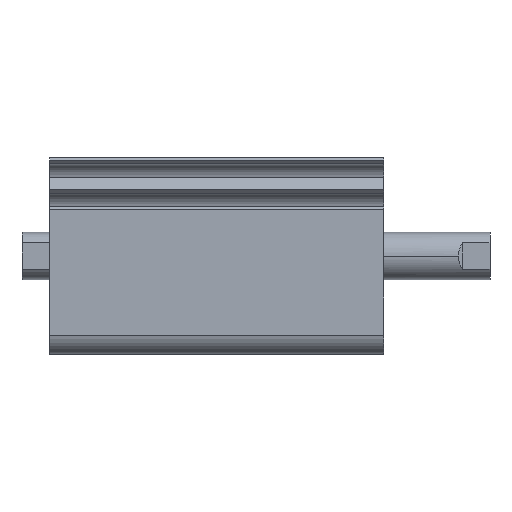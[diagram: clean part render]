
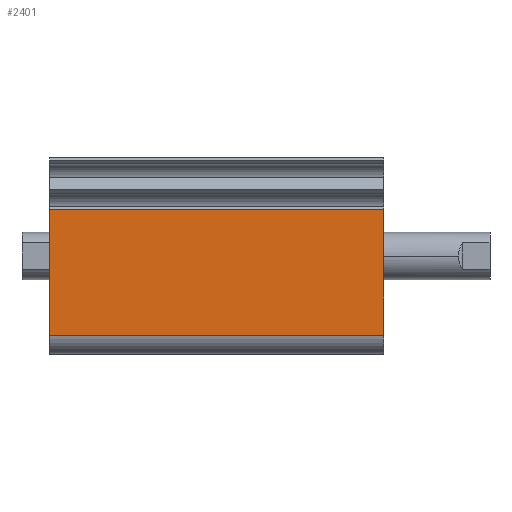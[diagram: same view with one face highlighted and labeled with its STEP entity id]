
A CAD part, top view. The second image highlights one B-rep face of the part: STEP entity #2401.
In plain terms, the highlighted planar face has unit normal (0, 0, 1).
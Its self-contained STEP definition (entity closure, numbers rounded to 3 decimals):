
#130 = VECTOR ( 'NONE', #1226, 1000. ) ;
#192 = LINE ( 'NONE', #1215, #1419 ) ;
#359 = LINE ( 'NONE', #1868, #2722 ) ;
#461 = ORIENTED_EDGE ( 'NONE', *, *, #1926, .T. ) ;
#721 = EDGE_CURVE ( 'NONE', #3112, #1351, #359, .T. ) ;
#756 = DIRECTION ( 'NONE',  ( 0., -1., 0. ) ) ;
#759 = AXIS2_PLACEMENT_3D ( 'NONE', #965, #2988, #756 ) ;
#850 = CARTESIAN_POINT ( 'NONE',  ( 42.4, -10.069, 12.5 ) ) ;
#944 = DIRECTION ( 'NONE',  ( 0., -1., 0. ) ) ;
#965 = CARTESIAN_POINT ( 'NONE',  ( 42.4, 5.885, 12.5 ) ) ;
#1033 = PLANE ( 'NONE',  #759 ) ;
#1215 = CARTESIAN_POINT ( 'NONE',  ( 0., 5.885, 12.5 ) ) ;
#1226 = DIRECTION ( 'NONE',  ( -1., 0., 0. ) ) ;
#1321 = DIRECTION ( 'NONE',  ( 0., -1., 0. ) ) ;
#1351 = VERTEX_POINT ( 'NONE', #1428 ) ;
#1403 = EDGE_CURVE ( 'NONE', #2389, #2172, #192, .T. ) ;
#1419 = VECTOR ( 'NONE', #944, 1000. ) ;
#1428 = CARTESIAN_POINT ( 'NONE',  ( 42.4, -10.069, 12.5 ) ) ;
#1476 = LINE ( 'NONE', #3226, #130 ) ;
#1642 = EDGE_LOOP ( 'NONE', ( #2733, #1949, #2684, #461 ) ) ;
#1852 = DIRECTION ( 'NONE',  ( -1., 0., 0. ) ) ;
#1868 = CARTESIAN_POINT ( 'NONE',  ( 42.4, 5.885, 12.5 ) ) ;
#1926 = EDGE_CURVE ( 'NONE', #3112, #2389, #1476, .T. ) ;
#1949 = ORIENTED_EDGE ( 'NONE', *, *, #2580, .F. ) ;
#2172 = VERTEX_POINT ( 'NONE', #2776 ) ;
#2365 = LINE ( 'NONE', #850, #3018 ) ;
#2389 = VERTEX_POINT ( 'NONE', #3247 ) ;
#2401 = ADVANCED_FACE ( 'NONE', ( #3024 ), #1033, .F. ) ;
#2527 = CARTESIAN_POINT ( 'NONE',  ( 42.4, 5.885, 12.5 ) ) ;
#2580 = EDGE_CURVE ( 'NONE', #1351, #2172, #2365, .T. ) ;
#2684 = ORIENTED_EDGE ( 'NONE', *, *, #721, .F. ) ;
#2722 = VECTOR ( 'NONE', #1321, 1000. ) ;
#2733 = ORIENTED_EDGE ( 'NONE', *, *, #1403, .T. ) ;
#2776 = CARTESIAN_POINT ( 'NONE',  ( 0., -10.069, 12.5 ) ) ;
#2988 = DIRECTION ( 'NONE',  ( 0., 0., -1. ) ) ;
#3018 = VECTOR ( 'NONE', #1852, 1000. ) ;
#3024 = FACE_OUTER_BOUND ( 'NONE', #1642, .T. ) ;
#3112 = VERTEX_POINT ( 'NONE', #2527 ) ;
#3226 = CARTESIAN_POINT ( 'NONE',  ( 42.4, 5.885, 12.5 ) ) ;
#3247 = CARTESIAN_POINT ( 'NONE',  ( 0., 5.885, 12.5 ) ) ;
